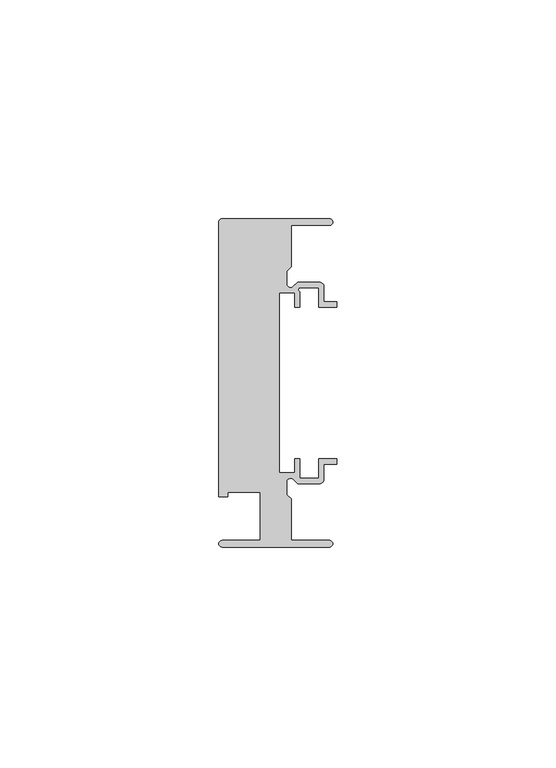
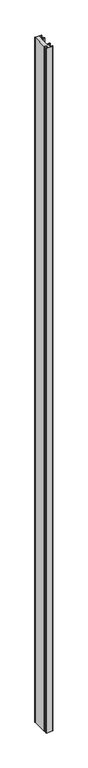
"""IFC4 building model written with IfcOpenShell, lengths in millimetres: member geometry, Прямоугольный импост : 5-AMG-1-Профиль 26Х75 Низ Л."""

from ifc_helpers import new_model, si_unit, point, frame, frame_2d, origin, place, context, project, spatial, polyline, circle_curve, trimmed, segment, composite_curve, outline, extrude, source, transform, mapped, element, save


def member_2fa9917d(model_context):
    return source(origin(), model_context, "Body", "SweptSolid", [
        extrude(outline(composite_curve([segment(polyline([(-1.7, -37.5), (-26.25, -37.5)]), True, "CONTINUOUS"), segment(trimmed(circle_curve(frame_2d((-26.25, -36.75)), 0.75), [point((-26.25, -37.5))], [point((-26.25, -36.0))], False, "CARTESIAN"), True, "CONTINUOUS"), segment(polyline([(-26.25, -36.0), (-17.5, -36.0), (-17.5, -25.0), (-24.9359877, -25.0), (-24.9359877, -26.0), (-27.0, -26.0), (-27.0, 36.75)]), True, "CONTINUOUS"), segment(trimmed(circle_curve(frame_2d((-26.25, 36.75)), 0.75), [point((-27.0, 36.75))], [point((-26.25, 37.5))], False, "CARTESIAN"), True, "CONTINUOUS"), segment(polyline([(-26.25, 37.5), (-1.7, 37.5)]), True, "CONTINUOUS"), segment(trimmed(circle_curve(frame_2d((-1.7, 36.75)), 0.75), [point((-1.7, 37.5))], [point((-1.7, 36.0))], False, "CARTESIAN"), True, "CONTINUOUS"), segment(polyline([(-1.7, 36.0), (-10.5, 36.0), (-10.5, 26.5029437), (-11.5, 25.5029437), (-11.5, 22.6727922)]), True, "CONTINUOUS"), segment(trimmed(circle_curve(frame_2d((-10.6, 22.6727922)), 0.9), [point((-11.5, 22.6727922))], [point((-9.9636039, 22.0363961))], True, "CARTESIAN"), True, "CONTINUOUS"), segment(polyline([(-9.9636039, 22.0363961), (-9.0, 23.0), (-4.0, 23.0)]), True, "CONTINUOUS"), segment(trimmed(circle_curve(frame_2d((-4.0, 22.0)), 1.0), [point((-4.0, 23.0))], [point((-3.0, 22.0))], False, "CARTESIAN"), True, "CONTINUOUS"), segment(polyline([(-3.0, 22.0), (-3.0, 18.55), (0.0, 18.55), (0.0, 17.35), (-4.2, 17.35), (-4.2, 21.8), (-8.5029437, 21.8)]), True, "CONTINUOUS"), segment(trimmed(circle_curve(frame_2d((-8.3343131, 21.3314262)), 0.4979937), [point((-8.5029437, 21.8))], [point((-8.45, 20.8470563))], True, "CARTESIAN"), True, "CONTINUOUS"), segment(polyline([(-8.45, 20.8470563), (-8.45, 17.35), (-9.65, 17.35), (-9.65, 20.55), (-13.15, 20.55), (-13.15, -20.55), (-9.65, -20.55), (-9.65, -17.35), (-8.45, -17.35), (-8.45, -21.8), (-4.2, -21.8), (-4.2, -17.35), (0.0, -17.35), (0.0, -18.55), (-3.0, -18.55), (-3.0, -22.0)]), True, "CONTINUOUS"), segment(trimmed(circle_curve(frame_2d((-4.0, -22.0)), 1.0), [point((-3.0, -22.0))], [point((-4.0, -23.0))], False, "CARTESIAN"), True, "CONTINUOUS"), segment(polyline([(-4.0, -23.0), (-9.0, -23.0), (-9.9636039, -22.0363961)]), True, "CONTINUOUS"), segment(trimmed(circle_curve(frame_2d((-10.6, -22.6727922)), 0.9), [point((-9.9636039, -22.0363961))], [point((-11.5, -22.6727922))], True, "CARTESIAN"), True, "CONTINUOUS"), segment(polyline([(-11.5, -22.6727922), (-11.5, -25.5029437), (-10.5, -26.5029437), (-10.5, -36.0), (-1.7, -36.0)]), True, "CONTINUOUS"), segment(trimmed(circle_curve(frame_2d((-1.7, -36.75)), 0.75), [point((-1.7, -36.0))], [point((-1.7, -37.5))], False, "CARTESIAN"), True, "CONTINUOUS")], self_intersect=False)), frame((0.0, 0.0, -2800.0), z_axis=(0.0, 0.0, 1.0), x_axis=(1.0, 0.0, 0.0)), (0.0, 0.0, 1.0), 2800.0),
    ])


if __name__ == "__main__":
    model = new_model("IFC4")
    model_context = context("Model", 3, world=origin())
    ifc_project = project(units=[si_unit("LENGTHUNIT", "METRE", prefix="MILLI")], contexts=[model_context])
    site = spatial("IfcSite", under=ifc_project)
    building = spatial("IfcBuilding", under=site)
    placement = place(None, origin())
    member_shape = member_2fa9917d(model_context)
    element("IfcMember", 1, ObjectType="Прямоугольный импост : 5-AMG-1-Профиль 26Х75 Низ Л", at=placement, inside=building, context=model_context, shape_type="MappedRepresentation", body=[
        mapped(member_shape, transform((0.0, 0.0, 0.0), x_axis=(1.0, 0.0, 0.0), y_axis=(0.0, 1.0, 0.0), z_axis=(0.0, 0.0, 1.0))),
    ])
    save(model, "model.ifc")
